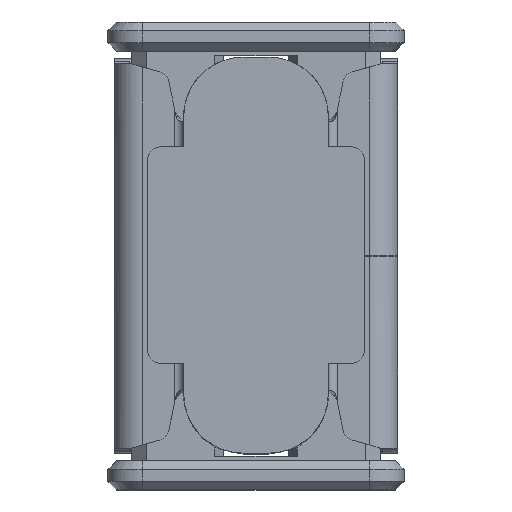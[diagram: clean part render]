
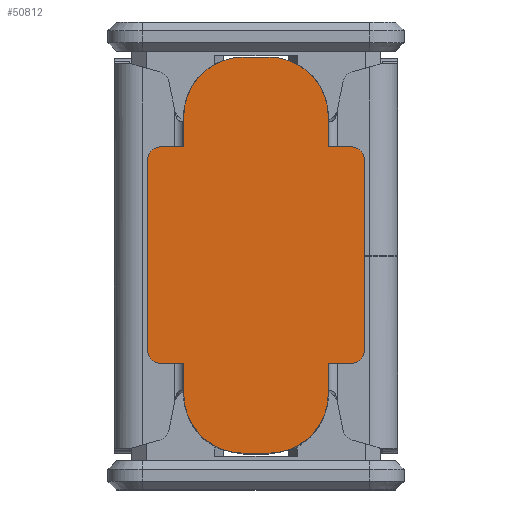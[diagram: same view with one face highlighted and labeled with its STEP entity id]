
A CAD part, top view. The second image highlights one B-rep face of the part: STEP entity #50812.
In plain terms, the highlighted planar face has unit normal (0, 0, 1).
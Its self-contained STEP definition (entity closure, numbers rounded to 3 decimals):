
#49822=CARTESIAN_POINT('',(4.427,-2.355,5.3));
#49823=VERTEX_POINT('',#49822);
#49830=CARTESIAN_POINT('',(4.427,-1.825,5.3));
#49831=VERTEX_POINT('',#49830);
#49832=CARTESIAN_POINT('',(4.427,-1.825,5.3));
#49833=DIRECTION('',(0.0,-1.0,0.));
#49834=VECTOR('',#49833,1.0);
#49835=LINE('',#49832,#49834);
#49836=EDGE_CURVE('no 3269',#49831,#49823,#49835,.T.);
#49854=CARTESIAN_POINT('',(4.727,-1.525,5.3));
#49855=VERTEX_POINT('',#49854);
#49864=CARTESIAN_POINT('',(4.727,-1.825,5.3));
#49865=DIRECTION('',(0.0,0.,-1.0));
#49866=DIRECTION('',(-1.0,0.0,0.0));
#49867=AXIS2_PLACEMENT_3D('',#49864,#49865,#49866);
#49868=CIRCLE('',#49867,0.3);
#49869=EDGE_CURVE('no 9575',#49831,#49855,#49868,.T.);
#49879=CARTESIAN_POINT('',(9.127,-1.525,5.3));
#49880=VERTEX_POINT('',#49879);
#49889=CARTESIAN_POINT('',(9.127,-1.525,5.3));
#49890=DIRECTION('',(-1.0,0.0,0.0));
#49891=VECTOR('',#49890,1.0);
#49892=LINE('',#49889,#49891);
#49893=EDGE_CURVE('no 31281',#49880,#49855,#49892,.T.);
#49903=CARTESIAN_POINT('',(9.427,-1.825,5.3));
#49904=VERTEX_POINT('',#49903);
#49913=CARTESIAN_POINT('',(9.127,-1.825,5.3));
#49914=DIRECTION('',(-0.0,0.,-1.0));
#49915=DIRECTION('',(-0.0,1.0,0.));
#49916=AXIS2_PLACEMENT_3D('',#49913,#49914,#49915);
#49917=CIRCLE('',#49916,0.3);
#49918=EDGE_CURVE('no 3448',#49880,#49904,#49917,.T.);
#49928=CARTESIAN_POINT('',(9.427,-2.355,5.3));
#49929=VERTEX_POINT('',#49928);
#49946=CARTESIAN_POINT('',(9.427,-2.355,5.3));
#49947=DIRECTION('',(0.0,1.0,0.));
#49948=VECTOR('',#49947,1.0);
#49949=LINE('',#49946,#49948);
#49950=EDGE_CURVE('no 15117',#49929,#49904,#49949,.T.);
#50082=CARTESIAN_POINT('',(9.427,-5.695,5.3));
#50083=VERTEX_POINT('',#50082);
#50090=CARTESIAN_POINT('',(9.427,-6.225,5.3));
#50091=VERTEX_POINT('',#50090);
#50092=CARTESIAN_POINT('',(9.427,-6.225,5.3));
#50093=DIRECTION('',(0.0,1.0,0.));
#50094=VECTOR('',#50093,1.0);
#50095=LINE('',#50092,#50094);
#50096=EDGE_CURVE('no 18',#50091,#50083,#50095,.T.);
#50114=CARTESIAN_POINT('',(9.127,-6.525,5.3));
#50115=VERTEX_POINT('',#50114);
#50124=CARTESIAN_POINT('',(9.127,-6.225,5.3));
#50125=DIRECTION('',(-0.0,0.,-1.0));
#50126=DIRECTION('',(1.0,0.,0.0));
#50127=AXIS2_PLACEMENT_3D('',#50124,#50125,#50126);
#50128=CIRCLE('',#50127,0.3);
#50129=EDGE_CURVE('no 51961',#50091,#50115,#50128,.T.);
#50139=CARTESIAN_POINT('',(4.727,-6.525,5.3));
#50140=VERTEX_POINT('',#50139);
#50149=CARTESIAN_POINT('',(4.727,-6.525,5.3));
#50150=DIRECTION('',(1.0,0.0,0.0));
#50151=VECTOR('',#50150,1.0);
#50152=LINE('',#50149,#50151);
#50153=EDGE_CURVE('no 24630',#50140,#50115,#50152,.T.);
#50163=CARTESIAN_POINT('',(4.427,-6.225,5.3));
#50164=VERTEX_POINT('',#50163);
#50173=CARTESIAN_POINT('',(4.727,-6.225,5.3));
#50174=DIRECTION('',(0.0,0.,-1.0));
#50175=DIRECTION('',(0.0,-1.0,0.));
#50176=AXIS2_PLACEMENT_3D('',#50173,#50174,#50175);
#50177=CIRCLE('',#50176,0.3);
#50178=EDGE_CURVE('no 53727',#50140,#50164,#50177,.T.);
#50188=CARTESIAN_POINT('',(4.427,-5.695,5.3));
#50189=VERTEX_POINT('',#50188);
#50199=CARTESIAN_POINT('',(4.427,-5.695,5.3));
#50200=DIRECTION('',(0.0,-1.0,0.));
#50201=VECTOR('',#50200,1.0);
#50202=LINE('',#50199,#50201);
#50203=EDGE_CURVE('no 46343',#50189,#50164,#50202,.T.);
#50635=CARTESIAN_POINT('',(3.727,-5.695,5.3));
#50636=VERTEX_POINT('',#50635);
#50637=CARTESIAN_POINT('',(3.727,-5.695,5.3));
#50638=DIRECTION('',(1.0,0.,0.));
#50639=VECTOR('',#50638,1.0);
#50640=LINE('',#50637,#50639);
#50641=EDGE_CURVE('no 34427',#50636,#50189,#50640,.T.);
#50660=CARTESIAN_POINT('',(2.358,-4.325,5.3));
#50661=VERTEX_POINT('',#50660);
#50662=CARTESIAN_POINT('',(3.728,-4.325,5.3));
#50663=DIRECTION('',(0.0,0.,-1.0));
#50664=DIRECTION('',(0.,-1.0,0.));
#50665=AXIS2_PLACEMENT_3D('',#50662,#50663,#50664);
#50666=CIRCLE('',#50665,1.37);
#50667=EDGE_CURVE('no 32005',#50636,#50661,#50666,.T.);
#50685=CARTESIAN_POINT('',(2.358,-3.725,5.3));
#50686=VERTEX_POINT('',#50685);
#50687=CARTESIAN_POINT('',(2.358,-3.725,5.3));
#50688=DIRECTION('',(0.,-1.0,0.));
#50689=VECTOR('',#50688,1.0);
#50690=LINE('',#50687,#50689);
#50691=EDGE_CURVE('no 14491',#50686,#50661,#50690,.T.);
#50709=CARTESIAN_POINT('',(3.727,-2.355,5.3));
#50710=VERTEX_POINT('',#50709);
#50711=CARTESIAN_POINT('',(3.728,-3.725,5.3));
#50712=DIRECTION('',(-0.0,0.,-1.0));
#50713=DIRECTION('',(-1.0,0.,0.0));
#50714=AXIS2_PLACEMENT_3D('',#50711,#50712,#50713);
#50715=CIRCLE('',#50714,1.37);
#50716=EDGE_CURVE('no 12256',#50686,#50710,#50715,.T.);
#50735=CARTESIAN_POINT('',(4.427,-2.355,5.3));
#50736=DIRECTION('',(-1.0,0.,0.));
#50737=VECTOR('',#50736,1.0);
#50738=LINE('',#50735,#50737);
#50739=EDGE_CURVE('no 24994',#49823,#50710,#50738,.T.);
#50750=ORIENTED_EDGE('no 49868',*,*,#50203,.T.);
#50751=ORIENTED_EDGE('no 45850',*,*,#50178,.F.);
#50752=ORIENTED_EDGE('no 52833',*,*,#50153,.T.);
#50753=ORIENTED_EDGE('no 2310',*,*,#50129,.F.);
#50754=ORIENTED_EDGE('no 26132',*,*,#50096,.T.);
#50755=CARTESIAN_POINT('',(10.127,-5.695,5.3));
#50756=VERTEX_POINT('',#50755);
#50757=CARTESIAN_POINT('',(9.427,-5.695,5.3));
#50758=DIRECTION('',(1.0,0.,0.));
#50759=VECTOR('',#50758,1.0);
#50760=LINE('',#50757,#50759);
#50761=EDGE_CURVE('no 21919',#50083,#50756,#50760,.T.);
#50762=ORIENTED_EDGE('no 47809',*,*,#50761,.T.);
#50763=CARTESIAN_POINT('',(11.497,-4.325,5.3));
#50764=VERTEX_POINT('',#50763);
#50765=CARTESIAN_POINT('',(10.127,-4.325,5.3));
#50766=DIRECTION('',(0.0,0.,-1.0));
#50767=DIRECTION('',(1.0,0.,0.0));
#50768=AXIS2_PLACEMENT_3D('',#50765,#50766,#50767);
#50769=CIRCLE('',#50768,1.37);
#50770=EDGE_CURVE('no 22767',#50764,#50756,#50769,.T.);
#50771=ORIENTED_EDGE('no 49412',*,*,#50770,.F.);
#50772=CARTESIAN_POINT('',(11.497,-3.725,5.3));
#50773=VERTEX_POINT('',#50772);
#50774=CARTESIAN_POINT('',(11.497,-4.325,5.3));
#50775=DIRECTION('',(0.,1.0,0.));
#50776=VECTOR('',#50775,1.0);
#50777=LINE('',#50774,#50776);
#50778=EDGE_CURVE('no 14017',#50764,#50773,#50777,.T.);
#50779=ORIENTED_EDGE('no 45416',*,*,#50778,.T.);
#50780=CARTESIAN_POINT('',(10.128,-2.355,5.3));
#50781=VERTEX_POINT('',#50780);
#50782=CARTESIAN_POINT('',(10.127,-3.725,5.3));
#50783=DIRECTION('',(0.0,0.,-1.0));
#50784=DIRECTION('',(0.,1.0,0.));
#50785=AXIS2_PLACEMENT_3D('',#50782,#50783,#50784);
#50786=CIRCLE('',#50785,1.37);
#50787=EDGE_CURVE('no 52228',#50781,#50773,#50786,.T.);
#50788=ORIENTED_EDGE('no 53708',*,*,#50787,.F.);
#50789=CARTESIAN_POINT('',(10.128,-2.355,5.3));
#50790=DIRECTION('',(-1.0,0.,0.));
#50791=VECTOR('',#50790,1.0);
#50792=LINE('',#50789,#50791);
#50793=EDGE_CURVE('no 11590',#50781,#49929,#50792,.T.);
#50794=ORIENTED_EDGE('no 35206',*,*,#50793,.T.);
#50795=ORIENTED_EDGE('no 12029',*,*,#49950,.T.);
#50796=ORIENTED_EDGE('no 12404',*,*,#49918,.F.);
#50797=ORIENTED_EDGE('no 52710',*,*,#49893,.T.);
#50798=ORIENTED_EDGE('no 21980',*,*,#49869,.F.);
#50799=ORIENTED_EDGE('no 24505',*,*,#49836,.T.);
#50800=ORIENTED_EDGE('no 2357',*,*,#50739,.T.);
#50801=ORIENTED_EDGE('no 1505',*,*,#50716,.F.);
#50802=ORIENTED_EDGE('no 4851',*,*,#50691,.T.);
#50803=ORIENTED_EDGE('no 13950',*,*,#50667,.F.);
#50804=ORIENTED_EDGE('no 5636',*,*,#50641,.T.);
#50805=EDGE_LOOP('',(
    #50750,#50751,#50752,#50753,#50754,#50762,#50771,#50779,#50788,#50794,
    #50795,#50796,#50797,#50798,#50799,#50800,#50801,#50802,#50803,#50804));
#50806=FACE_OUTER_BOUND('',#50805,.T.);
#50807=CARTESIAN_POINT('',(11.297,-1.025,5.3));
#50808=DIRECTION('',(0.0,0.,-1.0));
#50809=DIRECTION('',(-1.0,0.0,0.0));
#50810=AXIS2_PLACEMENT_3D('',#50807,#50808,#50809);
#50811=PLANE('',#50810);
#50812=ADVANCED_FACE('no 32247',(#50806),#50811,.F.);
